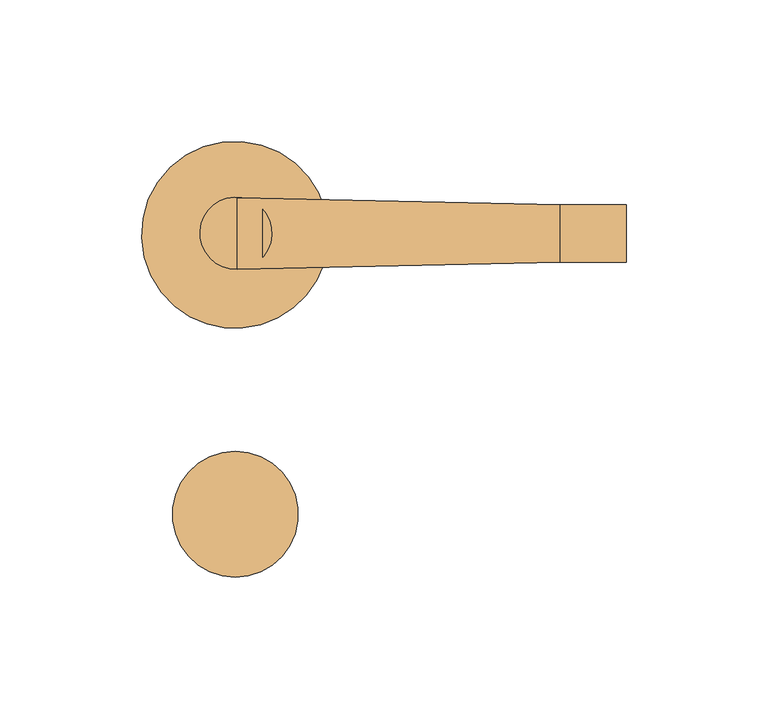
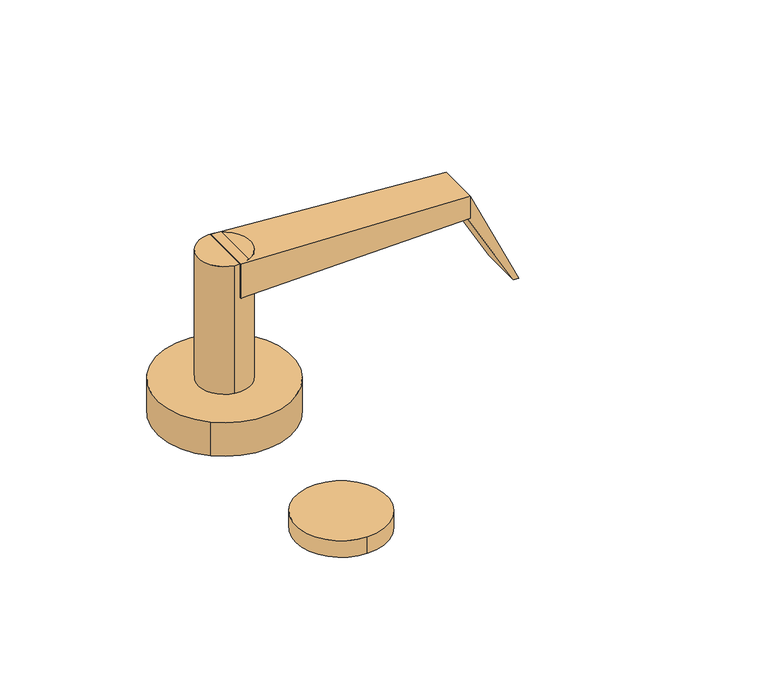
"""IFC4 building model written with IfcOpenShell, lengths in millimetres: door geometry, Door_Handle-Teknion-FHHSL-Schlage L Series(Child) : (3) Office and Inner Entrance Lock w/Interchangeable core keyway w/ADA thumbturn."""

from ifc_helpers import new_model, si_unit, point, frame, frame_2d, origin, origin_with_axes, place, context, project, spatial, polyline, circle_curve, trimmed, segment, composite_curve, outline, extrude, source, transform, mapped, element, save
from ifc_brep_helpers import plane_surface, spline_surface, advanced_brep


def door_708a980c(model_context):
    return source(origin(), model_context, "Body", "SolidModel", [
        extrude(outline(composite_curve([segment(trimmed(circle_curve(frame_2d((-1.5048449, -99.4936932)), 22.212872), [point((-1.5048449, -121.7065651))], [point((-1.5048449, -77.2808212))], False, "CARTESIAN"), True, "CONTINUOUS"), segment(trimmed(circle_curve(frame_2d((-1.5048449, -99.4936932)), 22.212872), [point((-1.5048449, -77.2808212))], [point((-1.5048449, -121.7065651))], False, "CARTESIAN"), True, "CONTINUOUS")], self_intersect=False)), origin_with_axes(), (0.0, 0.0, 1.0), 8.636),
        advanced_brep(
        [(113.0826159, 9.8661661, 77.089), (113.0826159, -10.4783486, 77.089), (113.0826159, -10.4783486, 65.659), (113.0826159, 9.8661661, 65.659), (-0.79375, 12.3783123, 83.439), (-0.79375, 12.378509, 65.659), (-0.79375, -13.0089229, 65.659), (-0.79375, -13.0118705, 83.439)],
        [
            (0, 1),
            (1, 2),
            (2, 3),
            (3, 0),
            (4, 5),
            (5, 6),
            (6, 7),
            (7, 4),
            (4, 0),
            (3, 5),
            (2, 6),
            (1, 7),
        ],
        [
            plane_surface(frame((113.0826159, -0.3060912, 71.374), z_axis=(1.0, 0.0, 0.0), x_axis=(0.0, 1.0, 0.0))),
            plane_surface(frame((-0.79375, -0.315993, 74.549), z_axis=(-1.0000000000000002, 0.0, 0.0), x_axis=(0.0, 1.1064247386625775e-05, -0.9999999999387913))),
            spline_surface(1, 1, [[(-0.79375, 12.3783123, 83.439), (-0.79375, 12.378509, 65.659)], [(113.0826159, 9.8661661, 77.089), (113.0826159, 9.8661661, 65.659)]], [2, 2], [2, 2], [0.0, 1.0], [0.0, 1.0]),
            plane_surface(frame((-0.79375, -0.315207, 65.659), z_axis=(0.0, 0.0, -1.0), x_axis=(0.0, -1.0, 0.0))),
            spline_surface(1, 1, [[(-0.79375, -13.0089229, 65.659), (-0.79375, -13.0118705, 83.439)], [(113.0826159, -10.4783486, 65.659), (113.0826159, -10.4783486, 77.089)]], [2, 2], [2, 2], [0.0, 1.0], [0.0, 1.0]),
            plane_surface(frame((-0.79375, -0.3167791, 83.439), z_axis=(0.05567573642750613, 0.0, 0.9984489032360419), x_axis=(0.0, 1.0, 0.0))),
        ],
        [
            (0, [[1, 2, 3, 4]]),
            (1, [[5, 6, 7, 8]]),
            (2, [[9, -4, 10, -5]]),
            (3, [[-10, -3, 11, -6]]),
            (4, [[-11, -2, 12, -7]]),
            (5, [[-12, -1, -9, -8]]),
        ],
    ),
        extrude(outline(composite_curve([segment(trimmed(circle_curve(frame_2d((-1.3064074, -0.1984375)), 12.7), [point((-3.427265, -12.7200973))], [point((0.8144502, 12.3232223))], False, "CARTESIAN"), True, "CONTINUOUS"), segment(trimmed(circle_curve(frame_2d((-1.3064074, -0.1984375)), 12.7), [point((0.8144502, 12.3232223))], [point((-3.427265, -12.7200973))], False, "CARTESIAN"), True, "CONTINUOUS")], self_intersect=False)), frame((0.0, 0.0, 17.399), z_axis=(0.0, 0.0, 1.0), x_axis=(1.0, 0.0, 0.0)), (0.0, 0.0, 1.0), 66.04),
        extrude(outline(composite_curve([segment(trimmed(circle_curve(frame_2d((-1.6178614, -0.7745191)), 33.02), [point((-22.9508261, -25.9781898))], [point((19.7151032, 24.4291516))], False, "CARTESIAN"), True, "CONTINUOUS"), segment(trimmed(circle_curve(frame_2d((-1.6178614, -0.7745191)), 33.02), [point((19.7151032, 24.4291516))], [point((-22.9508261, -25.9781898))], False, "CARTESIAN"), True, "CONTINUOUS")], self_intersect=False)), origin_with_axes(), (0.0, 0.0, 1.0), 17.399),
        extrude(outline(polyline([(77.089, 113.0826159), (65.659, 113.0826159), (65.659, 111.7545147), (26.5862634, 134.0924288), (26.5862634, 136.6324288), (77.089, 113.0826159)])), frame((0.0, -10.4783486, 0.0), z_axis=(0.0, 1.0, 0.0), x_axis=(0.0, 0.0, 1.0)), (0.0, 0.0, 1.0), 20.32),
    ])


if __name__ == "__main__":
    model = new_model("IFC4")
    model_context = context("Model", 3, world=origin())
    ifc_project = project(units=[si_unit("LENGTHUNIT", "METRE", prefix="MILLI")], contexts=[model_context])
    site = spatial("IfcSite", under=ifc_project)
    building = spatial("IfcBuilding", under=site)
    placement = place(None, origin())
    door_shape = door_708a980c(model_context)
    element("IfcDoor", 1, ObjectType="Door_Handle-Teknion-FHHSL-Schlage L Series(Child) : (3) Office and Inner Entrance Lock w/Interchangeable core keyway w/ADA thumbturn", at=placement, inside=building, context=model_context, shape_type="MappedRepresentation", body=[
        mapped(door_shape, transform((0.0, 0.0, 0.0), x_axis=(1.0, 0.0, 0.0), y_axis=(0.0, 1.0, 0.0), z_axis=(0.0, 0.0, 1.0))),
    ])
    save(model, "model.ifc")
